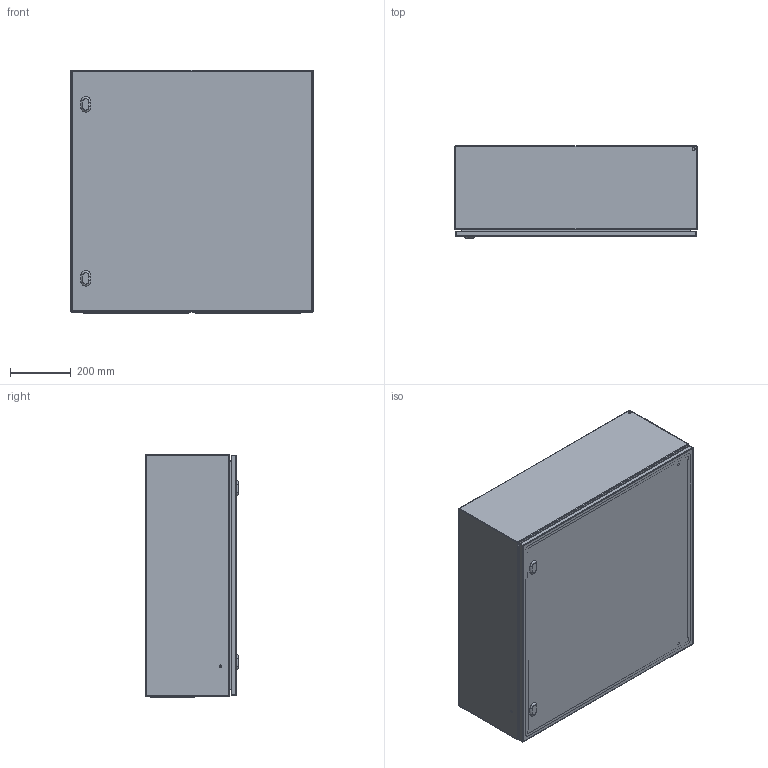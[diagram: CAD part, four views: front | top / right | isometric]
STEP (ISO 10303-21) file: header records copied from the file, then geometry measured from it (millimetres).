
FILE_DESCRIPTION(/* description */ ('STEP AP214'),/* implementation_level */ '2;1');
FILE_NAME(/* name */ 'EC080830-LOD400',/* time_stamp */ '2025-08-01T09:37:39+02:00',/* author */ ('License CC BY-ND 4.0'),/* organization */ ('CADENAS'),/* preprocessor_version */ 'ST-DEVELOPER v19.3',/* originating_system */ 'PARTsolutions',/* authorisation */ ' ');
FILE_SCHEMA (('AUTOMOTIVE_DESIGN {1 0 10303 214 3 1 1}'));
Length unit declared in the file: millimetre
Products named in the file (5): EC080830-LOD400; EC080830-LOD400_cabinet; EC080830-LOD400_door; EC080830-LOD400_bottom_plate; EC080830-LOD400_inner_plate
Assembly tree (5 placements, depth 2):
  EC080830-LOD400
    EC080830-LOD400_cabinet
    EC080830-LOD400_door
    EC080830-LOD400_bottom_plate  x2
    EC080830-LOD400_inner_plate
Bounding box: 800 x 305 x 804 mm (x, y, z)
Volume: 5347537.1 mm3; surface area: 6005189.6 mm2
Topology: 5 solids, 5 shells, 770 faces, 1792 edges, 1158 vertices
Faces by surface type: cylinder 316, plane 296, torus 80, cone 78
Full cylindrical faces by diameter (mm): 1 x96, 4.5 x62, 5 x4, 5.5 x4, 6 x4, 7 x4, 8 x12, 10 x10, 14 x4
Entity records: 16083 total; most frequent: DIRECTION 2940, CARTESIAN_POINT 2592, ORIENTED_EDGE 2300, AXIS2_PLACEMENT_3D 1210, EDGE_CURVE 1150, EDGE_LOOP 1040, FACE_BOUND 1040, VERTEX_POINT 862
